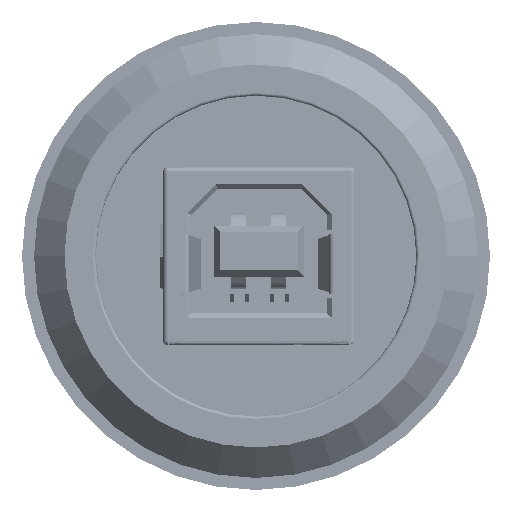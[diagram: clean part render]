
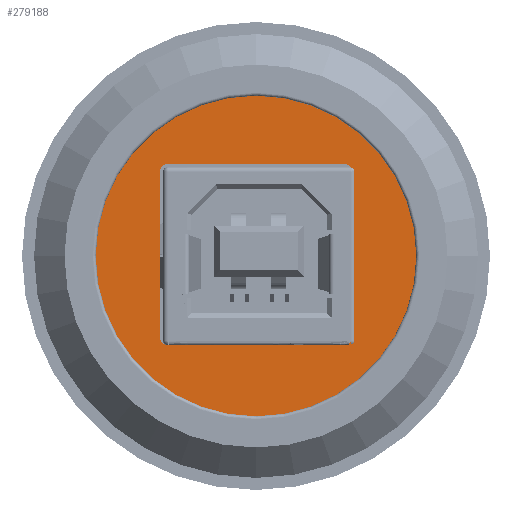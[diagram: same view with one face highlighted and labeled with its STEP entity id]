
A CAD part, front view. The second image highlights one B-rep face of the part: STEP entity #279188.
In plain terms, the highlighted planar face has unit normal (0, -1, 0).
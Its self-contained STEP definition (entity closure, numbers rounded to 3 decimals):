
#279168 = VERTEX_POINT('',#279169);
#279169 = CARTESIAN_POINT('',(10.,-6.5,0.));
#279175 = EDGE_CURVE('',#279168,#279168,#279176,.T.);
#279176 = CIRCLE('',#279177,10.);
#279177 = AXIS2_PLACEMENT_3D('',#279178,#279179,#279180);
#279178 = CARTESIAN_POINT('',(0.,-6.5,0.));
#279179 = DIRECTION('',(-0.,1.,0.));
#279180 = DIRECTION('',(1.,0.,0.));
#279188 = ADVANCED_FACE('',(#279189,#279192),#279262,.F.);
#279189 = FACE_BOUND('',#279190,.F.);
#279190 = EDGE_LOOP('',(#279191));
#279191 = ORIENTED_EDGE('',*,*,#279175,.T.);
#279192 = FACE_BOUND('',#279193,.F.);
#279193 = EDGE_LOOP('',(#279194,#279205,#279213,#279222,#279230,#279239,
    #279247,#279256));
#279194 = ORIENTED_EDGE('',*,*,#279195,.F.);
#279195 = EDGE_CURVE('',#279196,#279198,#279200,.T.);
#279196 = VERTEX_POINT('',#279197);
#279197 = CARTESIAN_POINT('',(-6.,-6.5,5.25));
#279198 = VERTEX_POINT('',#279199);
#279199 = CARTESIAN_POINT('',(-5.5,-6.5,5.75));
#279200 = CIRCLE('',#279201,0.5);
#279201 = AXIS2_PLACEMENT_3D('',#279202,#279203,#279204);
#279202 = CARTESIAN_POINT('',(-5.5,-6.5,5.25));
#279203 = DIRECTION('',(0.,1.,-0.));
#279204 = DIRECTION('',(-1.,0.,0.));
#279205 = ORIENTED_EDGE('',*,*,#279206,.T.);
#279206 = EDGE_CURVE('',#279196,#279207,#279209,.T.);
#279207 = VERTEX_POINT('',#279208);
#279208 = CARTESIAN_POINT('',(-6.,-6.5,-5.05));
#279209 = LINE('',#279210,#279211);
#279210 = CARTESIAN_POINT('',(-6.,-6.5,-2.775));
#279211 = VECTOR('',#279212,1.);
#279212 = DIRECTION('',(0.,0.,-1.));
#279213 = ORIENTED_EDGE('',*,*,#279214,.F.);
#279214 = EDGE_CURVE('',#279215,#279207,#279217,.T.);
#279215 = VERTEX_POINT('',#279216);
#279216 = CARTESIAN_POINT('',(-5.5,-6.5,-5.55));
#279217 = CIRCLE('',#279218,0.5);
#279218 = AXIS2_PLACEMENT_3D('',#279219,#279220,#279221);
#279219 = CARTESIAN_POINT('',(-5.5,-6.5,-5.05));
#279220 = DIRECTION('',(0.,1.,-0.));
#279221 = DIRECTION('',(-1.,0.,0.));
#279222 = ORIENTED_EDGE('',*,*,#279223,.T.);
#279223 = EDGE_CURVE('',#279215,#279224,#279226,.T.);
#279224 = VERTEX_POINT('',#279225);
#279225 = CARTESIAN_POINT('',(5.5,-6.5,-5.55));
#279226 = LINE('',#279227,#279228);
#279227 = CARTESIAN_POINT('',(-3.,-6.5,-5.55));
#279228 = VECTOR('',#279229,1.);
#279229 = DIRECTION('',(1.,0.,0.));
#279230 = ORIENTED_EDGE('',*,*,#279231,.F.);
#279231 = EDGE_CURVE('',#279232,#279224,#279234,.T.);
#279232 = VERTEX_POINT('',#279233);
#279233 = CARTESIAN_POINT('',(6.,-6.5,-5.05));
#279234 = CIRCLE('',#279235,0.5);
#279235 = AXIS2_PLACEMENT_3D('',#279236,#279237,#279238);
#279236 = CARTESIAN_POINT('',(5.5,-6.5,-5.05));
#279237 = DIRECTION('',(-0.,1.,0.));
#279238 = DIRECTION('',(1.,0.,0.));
#279239 = ORIENTED_EDGE('',*,*,#279240,.F.);
#279240 = EDGE_CURVE('',#279241,#279232,#279243,.T.);
#279241 = VERTEX_POINT('',#279242);
#279242 = CARTESIAN_POINT('',(6.,-6.5,5.25));
#279243 = LINE('',#279244,#279245);
#279244 = CARTESIAN_POINT('',(6.,-6.5,-2.775));
#279245 = VECTOR('',#279246,1.);
#279246 = DIRECTION('',(0.,0.,-1.));
#279247 = ORIENTED_EDGE('',*,*,#279248,.F.);
#279248 = EDGE_CURVE('',#279249,#279241,#279251,.T.);
#279249 = VERTEX_POINT('',#279250);
#279250 = CARTESIAN_POINT('',(5.5,-6.5,5.75));
#279251 = CIRCLE('',#279252,0.5);
#279252 = AXIS2_PLACEMENT_3D('',#279253,#279254,#279255);
#279253 = CARTESIAN_POINT('',(5.5,-6.5,5.25));
#279254 = DIRECTION('',(-0.,1.,0.));
#279255 = DIRECTION('',(1.,0.,0.));
#279256 = ORIENTED_EDGE('',*,*,#279257,.F.);
#279257 = EDGE_CURVE('',#279198,#279249,#279258,.T.);
#279258 = LINE('',#279259,#279260);
#279259 = CARTESIAN_POINT('',(-3.,-6.5,5.75));
#279260 = VECTOR('',#279261,1.);
#279261 = DIRECTION('',(1.,0.,0.));
#279262 = PLANE('',#279263);
#279263 = AXIS2_PLACEMENT_3D('',#279264,#279265,#279266);
#279264 = CARTESIAN_POINT('',(0.,-6.5,0.));
#279265 = DIRECTION('',(0.,1.,0.));
#279266 = DIRECTION('',(1.,0.,0.));
